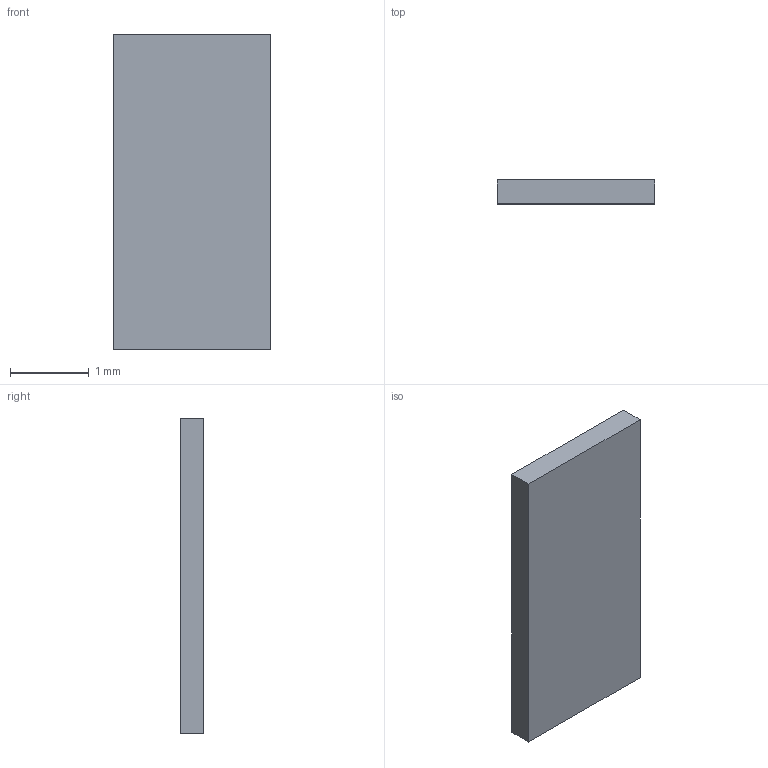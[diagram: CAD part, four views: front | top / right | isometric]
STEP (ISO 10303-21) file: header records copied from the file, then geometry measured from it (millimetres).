
FILE_DESCRIPTION(('Open CASCADE Model'),'2;1');
FILE_NAME('Open CASCADE Shape Model','2026-10-01T12:35:22',('Author'),( 'Open CASCADE'),'Open CASCADE STEP processor 7.8','Open CASCADE 7.8' ,'Unknown');
FILE_SCHEMA(('AUTOMOTIVE_DESIGN { 1 0 10303 214 1 1 1 1 }'));
Length unit declared in the file: millimetre
Products named in the file (2): H04_LCD_edge_pad_-18_26.5; H04_LCD_edge_pad_-18_26.5_solid
Assembly tree (1 placements, depth 2):
  H04_LCD_edge_pad_-18_26.5
    H04_LCD_edge_pad_-18_26.5_solid
Bounding box: 2 x 0.3 x 4 mm (x, y, z)
Volume: 2.4 mm3; surface area: 19.6 mm2
Topology: 1 solids, 1 shells, 6 faces, 12 edges, 8 vertices
Faces by surface type: plane 6
Entity records: 349 total; most frequent: CARTESIAN_POINT 52, DIRECTION 52, LINE 36, VECTOR 36, ORIENTED_EDGE 24, PCURVE 24, DEFINITIONAL_REPRESENTATION 24, EDGE_CURVE 12
